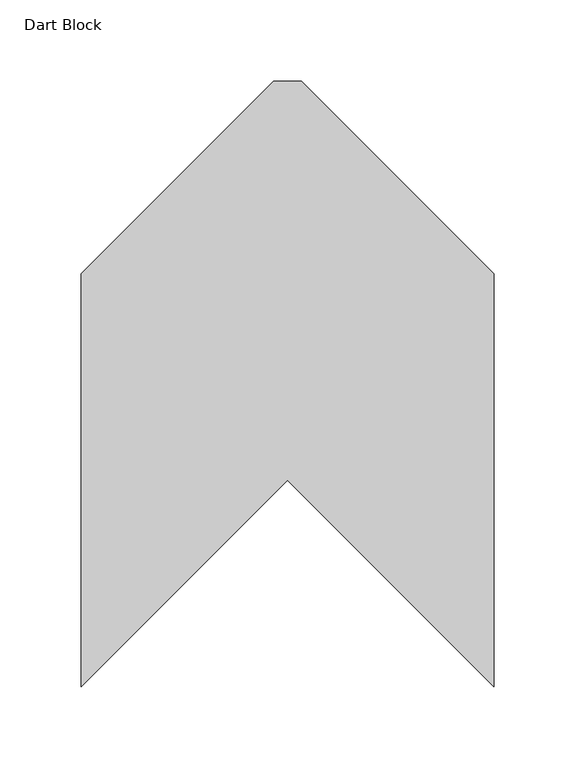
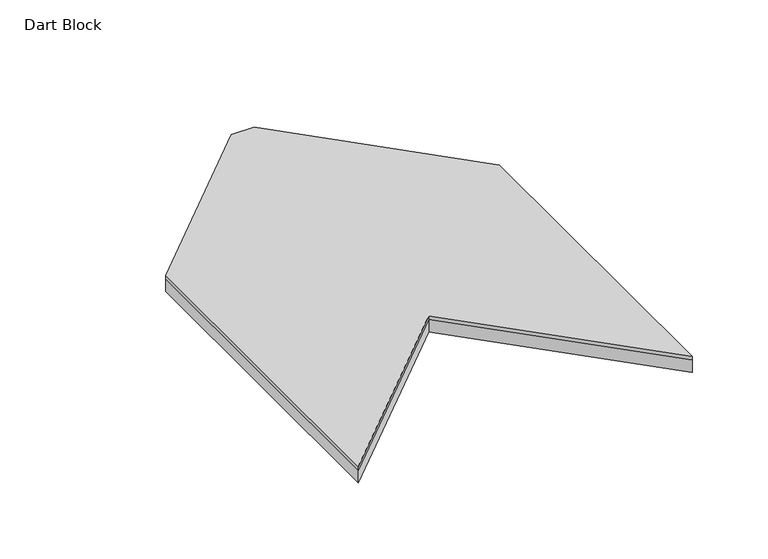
"""IFC4 building model written with IfcOpenShell, lengths in millimetres: proxy geometry, FilzFelt_Dart_Block : Dart Block."""

from ifc_helpers import new_model, si_unit, frame, origin, origin_with_axes, place, context, project, spatial, polyline, outline, extrude, source, transform, mapped, element, save


def dart_block_d6e125e5(model_context):
    return source(origin(), model_context, "Body", "SweptSolid", [
        extrude(outline(polyline([(127.0, 63.5), (127.0, -190.5), (0.0, -63.5), (-127.0, -190.5), (-127.0, 63.5), (-8.5916122, 181.9083878), (8.5916122, 181.9083878), (127.0, 63.5)])), frame((0.0, 0.0, 10.0210937), z_axis=(0.0, 0.0, 1.0), x_axis=(1.0, 0.0, 0.0)), (0.0, 0.0, 1.0), 2.9765625),
        extrude(outline(polyline([(127.0, -190.5), (0.0, -63.5), (-127.0, -190.5), (-127.0, 63.5), (-8.5916122, 181.9083878), (8.5916122, 181.9083878), (127.0, 63.5), (127.0, -190.5)])), origin_with_axes(), (0.0, 0.0, 1.0), 10.0210938),
    ])


if __name__ == "__main__":
    model = new_model("IFC4")
    model_context = context("Model", 3, world=origin())
    ifc_project = project(units=[si_unit("LENGTHUNIT", "METRE", prefix="MILLI")], contexts=[model_context])
    site = spatial("IfcSite", under=ifc_project)
    building = spatial("IfcBuilding", under=site)
    placement = place(None, origin())
    dart_block_shape = dart_block_d6e125e5(model_context)
    element("IfcBuildingElementProxy", 1, Name="FilzFelt_Dart_Block : Dart Block", ObjectType="FilzFelt_Dart_Block : Dart Block", at=placement, inside=building, context=model_context, shape_type="MappedRepresentation", body=[
        mapped(dart_block_shape, transform((0.0, 0.0, 0.0), x_axis=(1.0, 0.0, 0.0), y_axis=(0.0, 1.0, 0.0), z_axis=(0.0, 0.0, 1.0))),
    ])
    save(model, "model.ifc")
